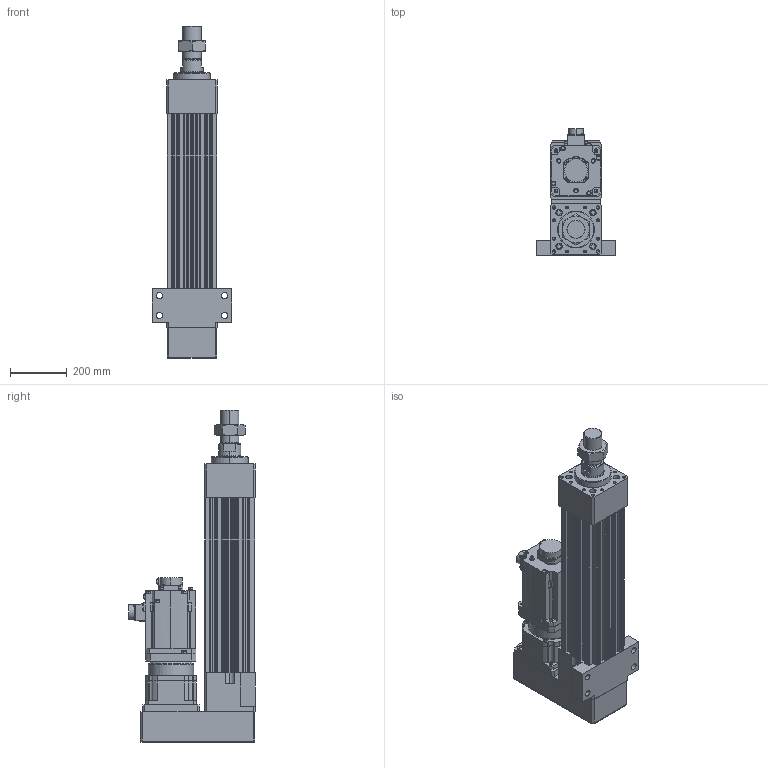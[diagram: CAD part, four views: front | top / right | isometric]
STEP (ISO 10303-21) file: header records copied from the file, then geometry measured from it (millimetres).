
FILE_DESCRIPTION (( 'STEP AP203' ), '1' );
FILE_NAME ('HES180HS-P300-W070G00-M-FFC.STEP', '2026-06-10T06:49:50', ( 'tms' ), ( '' ), 'SwSTEP 2.0', 'SolidWorks 2013', '' );
FILE_SCHEMA (( 'CONFIG_CONTROL_DESIGN' ));
Length unit declared in the file: millimetre
Products named in the file (9): HES180HS-P300-W070G00-M-FFC; M64X2.0P; AB1802; HES180-FFC-300; HES180-M-ROD-300; HES180-P-G180; AB1803; AB1801; HG-SR702B
Assembly tree (8 placements, depth 2):
  HES180HS-P300-W070G00-M-FFC
    HES180-FFC-300
    HES180-M-ROD-300
    M64X2.0P
    HES180-P-G180
    AB1801
    AB1802
    AB1803
    HG-SR702B
Bounding box: 280 x 447.1 x 1172 mm (x, y, z)
Volume: 28581217 mm3; surface area: 2499569.1 mm2
Topology: 5 solids, 20 shells, 1538 faces, 3985 edges, 2580 vertices
Faces by surface type: cylinder 708, plane 605, cone 158, bspline 63, torus 4
Entity records: 55722 total; most frequent: CARTESIAN_POINT 16516, DIRECTION 8271, ORIENTED_EDGE 7846, EDGE_CURVE 3947, AXIS2_PLACEMENT_3D 3115, VERTEX_POINT 2580, LINE 2041, VECTOR 2041
